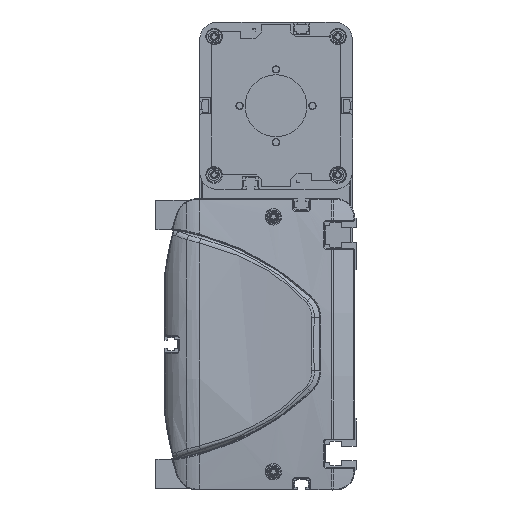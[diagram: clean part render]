
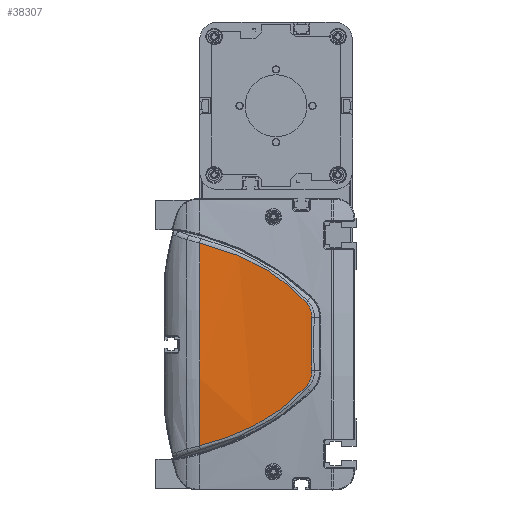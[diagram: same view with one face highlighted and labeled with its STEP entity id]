
A CAD part, left-side view. The second image highlights one B-rep face of the part: STEP entity #38307.
In plain terms, the highlighted cylindrical face has radius 600 mm (diameter 1200 mm), a partial arc.
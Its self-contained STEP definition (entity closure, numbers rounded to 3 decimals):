
#9765=CARTESIAN_POINT('',(-12.406,86.,55.736));
#9766=CARTESIAN_POINT('',(-12.529,80.495,54.41));
#9767=CARTESIAN_POINT('',(-12.828,69.636,51.114));
#9768=CARTESIAN_POINT('',(-13.389,54.079,44.179));
#9769=CARTESIAN_POINT('',(-14.01,39.709,34.979));
#9770=CARTESIAN_POINT('',(-14.395,31.353,27.243));
#9771=CARTESIAN_POINT('',(-14.555,27.451,23.113));
#9773=CARTESIAN_POINT('',(-14.555,27.451,23.113));
#9774=CARTESIAN_POINT('',(-14.598,26.394,21.994));
#9775=CARTESIAN_POINT('',(-14.695,24.746,19.315));
#9776=CARTESIAN_POINT('',(-14.783,24.276,16.208));
#9777=CARTESIAN_POINT('',(-14.821,24.351,14.67));
#9779=CARTESIAN_POINT('',(-14.821,24.351,14.67));
#9780=CARTESIAN_POINT('',(-14.9,24.51,11.413));
#9781=CARTESIAN_POINT('',(-15.007,24.721,4.895));
#9782=CARTESIAN_POINT('',(-15.007,24.721,
-4.895));
#9783=CARTESIAN_POINT('',(-14.9,24.51,
-11.413));
#9784=CARTESIAN_POINT('',(-14.821,24.351,
-14.67));
#9786=CARTESIAN_POINT('',(-14.821,24.351,
-14.67));
#9787=CARTESIAN_POINT('',(-14.783,24.276,
-16.208));
#9788=CARTESIAN_POINT('',(-14.695,24.746,
-19.315));
#9789=CARTESIAN_POINT('',(-14.598,26.394,
-21.995));
#9790=CARTESIAN_POINT('',(-14.555,27.451,
-23.113));
#9792=CARTESIAN_POINT('',(-14.555,27.451,
-23.113));
#9793=CARTESIAN_POINT('',(-14.395,31.353,
-27.243));
#9794=CARTESIAN_POINT('',(-14.01,39.709,
-34.979));
#9795=CARTESIAN_POINT('',(-13.389,54.079,
-44.179));
#9796=CARTESIAN_POINT('',(-12.828,69.636,
-51.114));
#9797=CARTESIAN_POINT('',(-12.529,80.495,
-54.41));
#9798=CARTESIAN_POINT('',(-12.406,86.,
-55.736));
#9800=CARTESIAN_POINT('',(585.,86.,0.));
#9801=DIRECTION('',(0.,1.,0.));
#9802=DIRECTION('',(-0.996,0.,-0.093));
#9803=AXIS2_PLACEMENT_3D('',#9800,#9801,#9802);
#9816=CARTESIAN_POINT('',(-12.406,86.,55.736));
#21247=VERTEX_POINT('',#9816);
#21248=CARTESIAN_POINT('',(-12.406,86.,
-55.736));
#21249=VERTEX_POINT('',#21248);
#21299=VERTEX_POINT('',#9771);
#21300=VERTEX_POINT('',#9777);
#21301=VERTEX_POINT('',#9784);
#21302=VERTEX_POINT('',#9790);
#38289=CARTESIAN_POINT('',(585.,87.45,0.));
#38290=DIRECTION('',(0.,-1.,0.));
#38291=DIRECTION('',(0.,0.,-1.));
#38292=AXIS2_PLACEMENT_3D('',#38289,#38290,#38291);
#38293=CYLINDRICAL_SURFACE('',#38292,600.);
#38295=ORIENTED_EDGE('',*,*,#38294,.T.);
#38297=ORIENTED_EDGE('',*,*,#38296,.T.);
#38299=ORIENTED_EDGE('',*,*,#38298,.T.);
#38300=ORIENTED_EDGE('',*,*,#38279,.T.);
#38302=ORIENTED_EDGE('',*,*,#38301,.T.);
#38304=ORIENTED_EDGE('',*,*,#38303,.T.);
#38305=EDGE_LOOP('',(#38295,#38297,#38299,#38300,#38302,#38304));
#38306=FACE_OUTER_BOUND('',#38305,.F.);
#38307=ADVANCED_FACE('',(#38306),#38293,.T.);
#9772=B_SPLINE_CURVE_WITH_KNOTS('',3,(#9765,#9766,#9767,#9768,#9769,#9770,
#9771),.UNSPECIFIED.,.F.,.F.,(4,1,1,1,4),(0.,0.25,0.5,0.75,1.),
.UNSPECIFIED.);
#9778=B_SPLINE_CURVE_WITH_KNOTS('',3,(#9773,#9774,#9775,#9776,#9777),
.UNSPECIFIED.,.F.,.F.,(4,1,4),(0.,0.5,1.),.UNSPECIFIED.);
#9785=B_SPLINE_CURVE_WITH_KNOTS('',3,(#9779,#9780,#9781,#9782,#9783,#9784),
.UNSPECIFIED.,.F.,.F.,(4,1,1,4),(0.,0.333,0.667,1.),
.UNSPECIFIED.);
#9791=B_SPLINE_CURVE_WITH_KNOTS('',3,(#9786,#9787,#9788,#9789,#9790),
.UNSPECIFIED.,.F.,.F.,(4,1,4),(0.,0.5,1.),.UNSPECIFIED.);
#9799=B_SPLINE_CURVE_WITH_KNOTS('',3,(#9792,#9793,#9794,#9795,#9796,#9797,
#9798),.UNSPECIFIED.,.F.,.F.,(4,1,1,1,4),(0.,0.25,0.5,0.75,1.),
.UNSPECIFIED.);
#9804=CIRCLE('',#9803,600.);
#38279=EDGE_CURVE('',#21301,#21302,#9791,.T.);
#38294=EDGE_CURVE('',#21247,#21299,#9772,.T.);
#38296=EDGE_CURVE('',#21299,#21300,#9778,.T.);
#38298=EDGE_CURVE('',#21300,#21301,#9785,.T.);
#38301=EDGE_CURVE('',#21302,#21249,#9799,.T.);
#38303=EDGE_CURVE('',#21249,#21247,#9804,.T.);
